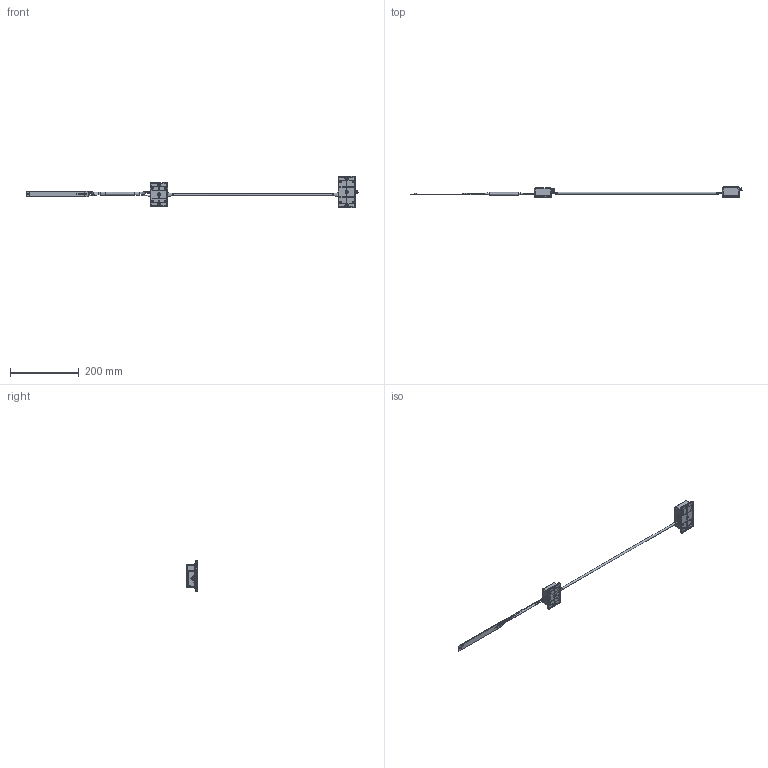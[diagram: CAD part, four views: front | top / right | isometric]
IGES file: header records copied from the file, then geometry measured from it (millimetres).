
Global section: file name: 20分離; native system: unknown; preprocessor: unknown; author: unknown; organization: unknown; date: 20210301.143307; units: millimetre
Bounding box: 963.03 x 29.9 x 90.4 mm (x, y, z)
Volume: 88782.8 mm3; surface area: 102341.8 mm2
Topology: 103 solids, 103 shells, 2991 faces, 7711 edges, 5048 vertices
Faces by surface type: bspline 2991
